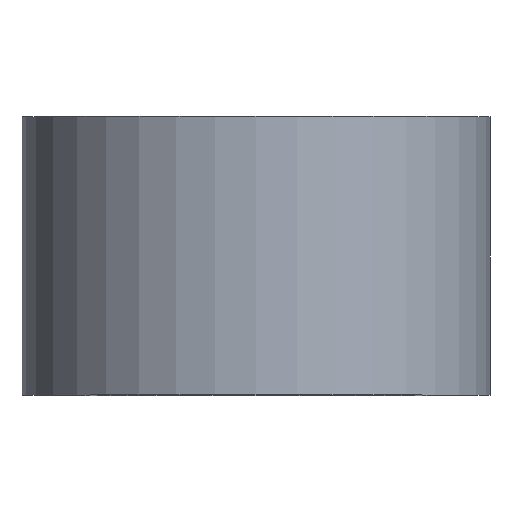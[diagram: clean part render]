
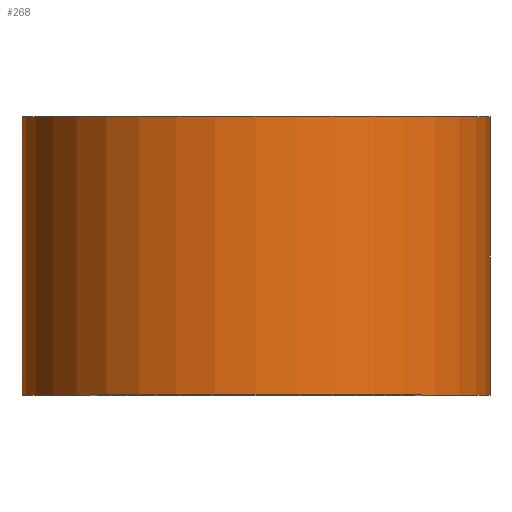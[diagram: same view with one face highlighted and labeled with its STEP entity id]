
A CAD part, top view. The second image highlights one B-rep face of the part: STEP entity #268.
In plain terms, the highlighted cylindrical face has radius 21 mm (diameter 42 mm), a partial arc.
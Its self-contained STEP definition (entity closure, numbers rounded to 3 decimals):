
#5 = CARTESIAN_POINT ( 'NONE',  ( 21., 25., 0. ) ) ;
#15 = EDGE_CURVE ( 'NONE', #259, #41, #22, .T. ) ;
#22 = LINE ( 'NONE', #94, #45 ) ;
#23 = CIRCLE ( 'NONE', #31, 21. ) ;
#31 = AXIS2_PLACEMENT_3D ( 'NONE', #260, #99, #119 ) ;
#41 = VERTEX_POINT ( 'NONE', #5 ) ;
#44 = CARTESIAN_POINT ( 'NONE',  ( -21., 0., 0. ) ) ;
#45 = VECTOR ( 'NONE', #133, 1000. ) ;
#56 = DIRECTION ( 'NONE',  ( 0., 1., 0. ) ) ;
#78 = DIRECTION ( 'NONE',  ( -1., 0., 0. ) ) ;
#82 = EDGE_LOOP ( 'NONE', ( #93, #128, #201, #222 ) ) ;
#93 = ORIENTED_EDGE ( 'NONE', *, *, #205, .T. ) ;
#94 = CARTESIAN_POINT ( 'NONE',  ( 21., 0., 0. ) ) ;
#99 = DIRECTION ( 'NONE',  ( 0., 1., 0. ) ) ;
#119 = DIRECTION ( 'NONE',  ( -1., 0., 0. ) ) ;
#120 = DIRECTION ( 'NONE',  ( 0., 1., 0. ) ) ;
#121 = VERTEX_POINT ( 'NONE', #44 ) ;
#128 = ORIENTED_EDGE ( 'NONE', *, *, #15, .T. ) ;
#133 = DIRECTION ( 'NONE',  ( 0., 1., 0. ) ) ;
#152 = FACE_OUTER_BOUND ( 'NONE', #82, .T. ) ;
#169 = CARTESIAN_POINT ( 'NONE',  ( 0., 0., 0. ) ) ;
#183 = AXIS2_PLACEMENT_3D ( 'NONE', #169, #56, #220 ) ;
#184 = VERTEX_POINT ( 'NONE', #237 ) ;
#191 = AXIS2_PLACEMENT_3D ( 'NONE', #258, #120, #78 ) ;
#192 = CIRCLE ( 'NONE', #191, 21. ) ;
#200 = EDGE_CURVE ( 'NONE', #184, #41, #192, .T. ) ;
#201 = ORIENTED_EDGE ( 'NONE', *, *, #200, .F. ) ;
#203 = LINE ( 'NONE', #287, #208 ) ;
#205 = EDGE_CURVE ( 'NONE', #121, #259, #23, .T. ) ;
#208 = VECTOR ( 'NONE', #216, 1000. ) ;
#216 = DIRECTION ( 'NONE',  ( 0., 1., 0. ) ) ;
#220 = DIRECTION ( 'NONE',  ( -1., 0., 0. ) ) ;
#222 = ORIENTED_EDGE ( 'NONE', *, *, #228, .F. ) ;
#228 = EDGE_CURVE ( 'NONE', #121, #184, #203, .T. ) ;
#236 = CARTESIAN_POINT ( 'NONE',  ( 21., 0., 0. ) ) ;
#237 = CARTESIAN_POINT ( 'NONE',  ( -21., 25., 0. ) ) ;
#258 = CARTESIAN_POINT ( 'NONE',  ( 0., 25., 0. ) ) ;
#259 = VERTEX_POINT ( 'NONE', #236 ) ;
#260 = CARTESIAN_POINT ( 'NONE',  ( 0., 0., 0. ) ) ;
#268 = ADVANCED_FACE ( 'NONE', ( #152 ), #298, .T. ) ;
#287 = CARTESIAN_POINT ( 'NONE',  ( -21., 0., 0. ) ) ;
#298 = CYLINDRICAL_SURFACE ( 'NONE', #183, 21. ) ;
